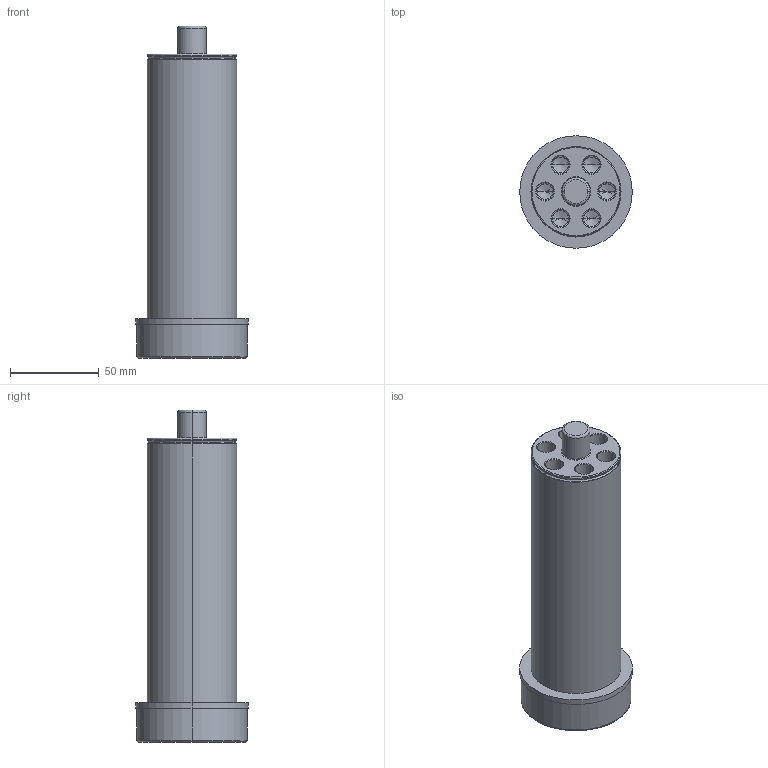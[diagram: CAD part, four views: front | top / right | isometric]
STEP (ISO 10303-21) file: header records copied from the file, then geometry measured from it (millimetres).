
FILE_DESCRIPTION (( 'STEP AP214' ), '1' );
FILE_NAME ('GK200-M-6-GuidePin.STEP', '2010-11-16T21:05:13', ( ' ' ), ( '' ), 'SwSTEP 2.0', 'SolidWorks 2010', '' );
FILE_SCHEMA (( 'AUTOMOTIVE_DESIGN' ));
Length unit declared in the file: inch
Products named in the file (1): GK200-M-6-GuidePin
Bounding box: 63.5 x 63.5 x 187.32 mm (x, y, z)
Volume: 359346.3 mm3; surface area: 43564.4 mm2
Topology: 2 solids, 2 shells, 96 faces, 202 edges, 106 vertices
Faces by surface type: cylinder 36, cone 36, torus 18, plane 6
Entity records: 2667 total; most frequent: DIRECTION 502, CARTESIAN_POINT 393, ORIENTED_EDGE 380, AXIS2_PLACEMENT_3D 215, EDGE_CURVE 190, CIRCLE 118, EDGE_LOOP 106, VERTEX_POINT 106
